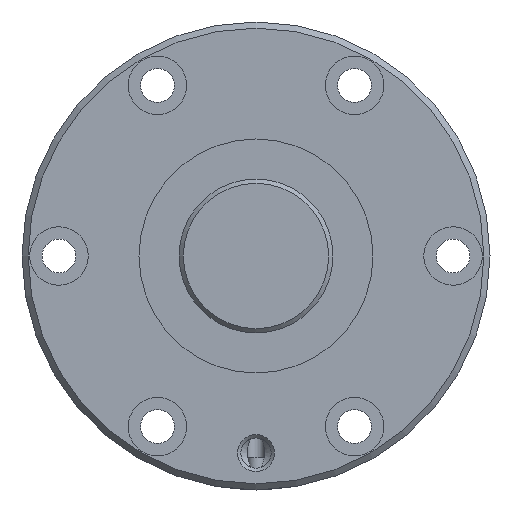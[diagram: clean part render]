
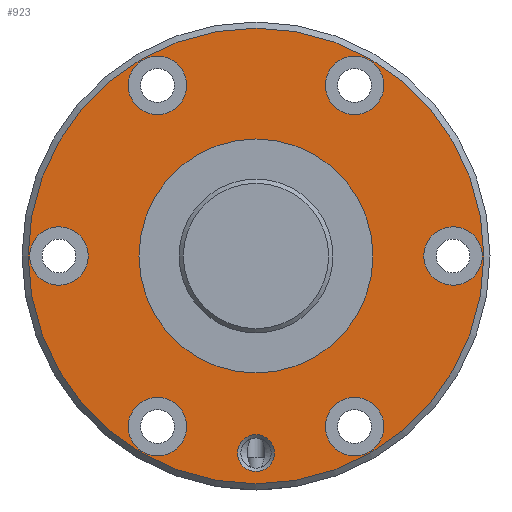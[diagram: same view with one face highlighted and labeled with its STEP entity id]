
A CAD part, left-side view. The second image highlights one B-rep face of the part: STEP entity #923.
In plain terms, the highlighted planar face has unit normal (-1, 0, 0).
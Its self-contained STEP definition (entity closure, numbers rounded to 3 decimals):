
#154=ORIENTED_EDGE('',*,*,#357,.T.);
#155=ORIENTED_EDGE('',*,*,#358,.T.);
#156=ORIENTED_EDGE('',*,*,#359,.T.);
#157=ORIENTED_EDGE('',*,*,#360,.T.);
#158=ORIENTED_EDGE('',*,*,#361,.T.);
#159=ORIENTED_EDGE('',*,*,#362,.T.);
#160=ORIENTED_EDGE('',*,*,#363,.T.);
#161=ORIENTED_EDGE('',*,*,#364,.T.);
#162=ORIENTED_EDGE('',*,*,#356,.F.);
#356=EDGE_CURVE('',#461,#461,#545,.T.);
#357=EDGE_CURVE('',#462,#462,#546,.T.);
#358=EDGE_CURVE('',#463,#463,#547,.F.);
#359=EDGE_CURVE('',#464,#464,#548,.T.);
#360=EDGE_CURVE('',#465,#465,#549,.T.);
#361=EDGE_CURVE('',#466,#466,#550,.T.);
#362=EDGE_CURVE('',#467,#467,#551,.T.);
#363=EDGE_CURVE('',#468,#468,#552,.T.);
#364=EDGE_CURVE('',#469,#469,#553,.T.);
#461=VERTEX_POINT('',#1548);
#462=VERTEX_POINT('',#1551);
#463=VERTEX_POINT('',#1553);
#464=VERTEX_POINT('',#1555);
#465=VERTEX_POINT('',#1557);
#466=VERTEX_POINT('',#1559);
#467=VERTEX_POINT('',#1561);
#468=VERTEX_POINT('',#1563);
#469=VERTEX_POINT('',#1565);
#545=CIRCLE('',#1030,37.);
#546=CIRCLE('',#1032,19.);
#547=CIRCLE('',#1033,4.75);
#548=CIRCLE('',#1034,3.);
#549=CIRCLE('',#1035,4.75);
#550=CIRCLE('',#1036,4.75);
#551=CIRCLE('',#1037,4.75);
#552=CIRCLE('',#1038,4.75);
#553=CIRCLE('',#1039,4.75);
#626=EDGE_LOOP('',(#154));
#627=EDGE_LOOP('',(#155));
#628=EDGE_LOOP('',(#156));
#629=EDGE_LOOP('',(#157));
#630=EDGE_LOOP('',(#158));
#631=EDGE_LOOP('',(#159));
#632=EDGE_LOOP('',(#160));
#633=EDGE_LOOP('',(#161));
#634=EDGE_LOOP('',(#162));
#766=FACE_BOUND('',#626,.T.);
#767=FACE_BOUND('',#627,.T.);
#768=FACE_BOUND('',#628,.T.);
#769=FACE_BOUND('',#629,.T.);
#770=FACE_BOUND('',#630,.T.);
#771=FACE_BOUND('',#631,.T.);
#772=FACE_BOUND('',#632,.T.);
#773=FACE_BOUND('',#633,.T.);
#774=FACE_BOUND('',#634,.T.);
#888=PLANE('',#1031);
#923=ADVANCED_FACE('',(#766,#767,#768,#769,#770,#771,#772,#773,#774),#888,
 .T.);
#1030=AXIS2_PLACEMENT_3D('',#1547,#1198,#1199);
#1031=AXIS2_PLACEMENT_3D('',#1549,#1200,#1201);
#1032=AXIS2_PLACEMENT_3D('',#1550,#1202,#1203);
#1033=AXIS2_PLACEMENT_3D('',#1552,#1204,#1205);
#1034=AXIS2_PLACEMENT_3D('',#1554,#1206,#1207);
#1035=AXIS2_PLACEMENT_3D('',#1556,#1208,#1209);
#1036=AXIS2_PLACEMENT_3D('',#1558,#1210,#1211);
#1037=AXIS2_PLACEMENT_3D('',#1560,#1212,#1213);
#1038=AXIS2_PLACEMENT_3D('',#1562,#1214,#1215);
#1039=AXIS2_PLACEMENT_3D('',#1564,#1216,#1217);
#1198=DIRECTION('',(1.,0.,0.));
#1199=DIRECTION('',(0.,0.,-1.));
#1200=DIRECTION('',(-1.,0.,0.));
#1201=DIRECTION('',(0.,0.,1.));
#1202=DIRECTION('',(1.,0.,0.));
#1203=DIRECTION('',(0.,0.,-1.));
#1204=DIRECTION('',(-1.,0.,0.));
#1205=DIRECTION('',(0.,0.,1.));
#1206=DIRECTION('',(1.,0.,0.));
#1207=DIRECTION('',(0.,0.,-1.));
#1208=DIRECTION('',(1.,0.,0.));
#1209=DIRECTION('',(0.,0.,-1.));
#1210=DIRECTION('',(1.,0.,0.));
#1211=DIRECTION('',(0.,0.,-1.));
#1212=DIRECTION('',(1.,0.,0.));
#1213=DIRECTION('',(0.,0.,-1.));
#1214=DIRECTION('',(1.,0.,0.));
#1215=DIRECTION('',(0.,0.,-1.));
#1216=DIRECTION('',(1.,0.,0.));
#1217=DIRECTION('',(0.,0.,-1.));
#1547=CARTESIAN_POINT('',(0.,0.,0.));
#1548=CARTESIAN_POINT('',(0.,0.,-37.));
#1549=CARTESIAN_POINT('',(0.,37.,0.));
#1550=CARTESIAN_POINT('',(0.,0.,0.));
#1551=CARTESIAN_POINT('',(0.,0.,-19.));
#1552=CARTESIAN_POINT('',(0.,32.,0.));
#1553=CARTESIAN_POINT('',(0.,32.,4.75));
#1554=CARTESIAN_POINT('',(0.,0.,-32.));
#1555=CARTESIAN_POINT('',(0.,0.,-35.));
#1556=CARTESIAN_POINT('',(0.,-32.,0.));
#1557=CARTESIAN_POINT('',(0.,-32.,-4.75));
#1558=CARTESIAN_POINT('',(0.,16.,27.713));
#1559=CARTESIAN_POINT('',(0.,16.,22.963));
#1560=CARTESIAN_POINT('',(0.,-16.,-27.713));
#1561=CARTESIAN_POINT('',(0.,-16.,-32.463));
#1562=CARTESIAN_POINT('',(0.,-16.,27.713));
#1563=CARTESIAN_POINT('',(0.,-16.,22.963));
#1564=CARTESIAN_POINT('',(0.,16.,-27.713));
#1565=CARTESIAN_POINT('',(0.,16.,-32.463));
